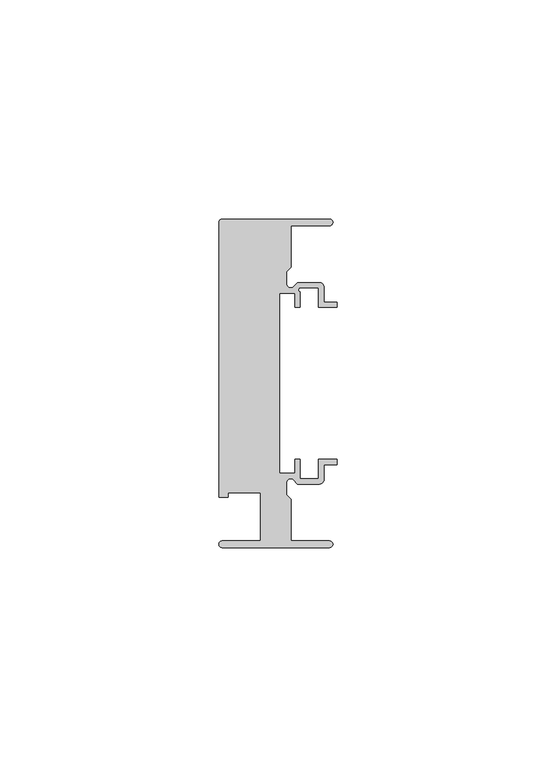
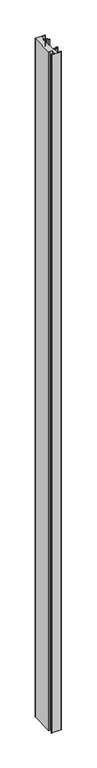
"""IFC4 building model written with IfcOpenShell, lengths in millimetres: member geometry, Прямоугольный импост : 5-AMG-1-Профиль 26Х75 Верх П."""

from ifc_helpers import new_model, si_unit, point, frame, frame_2d, origin, place, context, project, spatial, polyline, circle_curve, trimmed, segment, composite_curve, outline, extrude, source, transform, mapped, element, save


def member_db7ca8c1(model_context):
    return source(origin(), model_context, "Body", "SweptSolid", [
        extrude(outline(composite_curve([segment(polyline([(-1.7, -37.5), (-26.25, -37.5)]), True, "CONTINUOUS"), segment(trimmed(circle_curve(frame_2d((-26.25, -36.75)), 0.75), [point((-26.25, -37.5))], [point((-26.25, -36.0))], False, "CARTESIAN"), True, "CONTINUOUS"), segment(polyline([(-26.25, -36.0), (-17.5, -36.0), (-17.5, -25.0), (-24.9359877, -25.0), (-24.9359877, -26.0), (-27.0, -26.0), (-27.0, 36.7244847)]), True, "CONTINUOUS"), segment(trimmed(circle_curve(frame_2d((-26.2240507, 36.7244847)), 0.7759493), [point((-27.0, 36.7244847))], [point((-26.25, 37.5))], False, "CARTESIAN"), True, "CONTINUOUS"), segment(polyline([(-26.25, 37.5), (-1.7, 37.5)]), True, "CONTINUOUS"), segment(trimmed(circle_curve(frame_2d((-1.7, 36.75)), 0.75), [point((-1.7, 37.5))], [point((-1.7, 36.0))], False, "CARTESIAN"), True, "CONTINUOUS"), segment(polyline([(-1.7, 36.0), (-10.5, 36.0), (-10.5, 26.5029437), (-11.5, 25.5029437), (-11.5, 22.6727922)]), True, "CONTINUOUS"), segment(trimmed(circle_curve(frame_2d((-10.6, 22.6727922)), 0.9), [point((-11.5, 22.6727922))], [point((-9.9636039, 22.0363961))], True, "CARTESIAN"), True, "CONTINUOUS"), segment(polyline([(-9.9636039, 22.0363961), (-9.0, 23.0), (-4.0, 23.0)]), True, "CONTINUOUS"), segment(trimmed(circle_curve(frame_2d((-4.0, 22.0)), 1.0), [point((-4.0, 23.0))], [point((-3.0, 22.0))], False, "CARTESIAN"), True, "CONTINUOUS"), segment(polyline([(-3.0, 22.0), (-3.0, 18.55), (0.0, 18.55), (0.0, 17.35), (-4.2, 17.35), (-4.2, 21.8), (-8.5029437, 21.8)]), True, "CONTINUOUS"), segment(trimmed(circle_curve(frame_2d((-8.3343131, 21.3314262)), 0.4979937), [point((-8.5029437, 21.8))], [point((-8.45, 20.8470563))], True, "CARTESIAN"), True, "CONTINUOUS"), segment(polyline([(-8.45, 20.8470563), (-8.45, 17.35), (-9.65, 17.35), (-9.65, 20.55), (-13.15, 20.55), (-13.15, -20.55), (-9.65, -20.55), (-9.65, -17.35), (-8.45, -17.35), (-8.45, -21.8), (-4.2, -21.8), (-4.2, -17.35), (0.0, -17.35), (0.0, -18.55), (-3.0, -18.55), (-3.0, -22.0)]), True, "CONTINUOUS"), segment(trimmed(circle_curve(frame_2d((-4.0, -22.0)), 1.0), [point((-3.0, -22.0))], [point((-4.0, -23.0))], False, "CARTESIAN"), True, "CONTINUOUS"), segment(polyline([(-4.0, -23.0), (-9.0, -23.0), (-9.9636039, -22.0363961)]), True, "CONTINUOUS"), segment(trimmed(circle_curve(frame_2d((-10.6, -22.6727922)), 0.9), [point((-9.9636039, -22.0363961))], [point((-11.5, -22.6727922))], True, "CARTESIAN"), True, "CONTINUOUS"), segment(polyline([(-11.5, -22.6727922), (-11.5, -25.5029437), (-10.5, -26.5029437), (-10.5, -36.0), (-1.7, -36.0)]), True, "CONTINUOUS"), segment(trimmed(circle_curve(frame_2d((-1.7, -36.75)), 0.75), [point((-1.7, -36.0))], [point((-1.7, -37.5))], False, "CARTESIAN"), True, "CONTINUOUS")], self_intersect=False)), frame((0.0, 0.0, -1875.0), z_axis=(0.0, 0.0, 1.0), x_axis=(1.0, 0.0, 0.0)), (0.0, 0.0, 1.0), 1875.0),
    ])


if __name__ == "__main__":
    model = new_model("IFC4")
    model_context = context("Model", 3, world=origin())
    ifc_project = project(units=[si_unit("LENGTHUNIT", "METRE", prefix="MILLI")], contexts=[model_context])
    site = spatial("IfcSite", under=ifc_project)
    building = spatial("IfcBuilding", under=site)
    placement = place(None, origin())
    member_shape = member_db7ca8c1(model_context)
    element("IfcMember", 1, ObjectType="Прямоугольный импост : 5-AMG-1-Профиль 26Х75 Верх П", at=placement, inside=building, context=model_context, shape_type="MappedRepresentation", body=[
        mapped(member_shape, transform((0.0, 0.0, 0.0), x_axis=(1.0, 0.0, 0.0), y_axis=(0.0, 1.0, 0.0), z_axis=(0.0, 0.0, 1.0))),
    ])
    save(model, "model.ifc")
